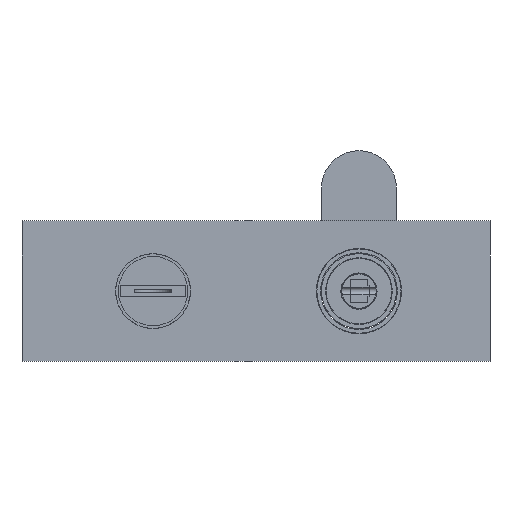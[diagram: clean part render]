
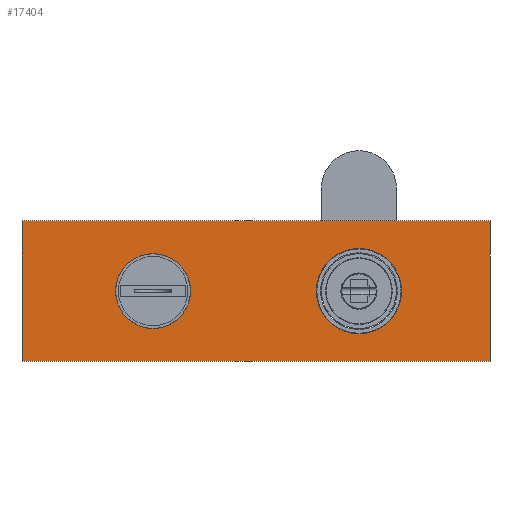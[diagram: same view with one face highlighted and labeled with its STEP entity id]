
A CAD part, front view. The second image highlights one B-rep face of the part: STEP entity #17404.
In plain terms, the highlighted planar face has unit normal (0, -1, 0).
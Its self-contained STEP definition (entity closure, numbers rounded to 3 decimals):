
#13829=DIRECTION('',(0.,0.,-1.));
#13830=VECTOR('',#13829,75.);
#13831=CARTESIAN_POINT('',(-180.,-10.6,37.5));
#13832=LINE('',#13831,#13830);
#13833=DIRECTION('',(-1.,0.,0.));
#13834=VECTOR('',#13833,250.);
#13835=CARTESIAN_POINT('',(70.,-10.6,37.5));
#13836=LINE('',#13835,#13834);
#13837=DIRECTION('',(0.,0.,1.));
#13838=VECTOR('',#13837,75.);
#13839=CARTESIAN_POINT('',(70.,-10.6,-37.5));
#13840=LINE('',#13839,#13838);
#13841=DIRECTION('',(1.,0.,0.));
#13842=VECTOR('',#13841,250.);
#13843=CARTESIAN_POINT('',(-180.,-10.6,-37.5));
#13844=LINE('',#13843,#13842);
#13845=CARTESIAN_POINT('',(0.,-10.6,0.));
#13846=DIRECTION('',(0.,-1.,0.));
#13847=DIRECTION('',(0.,0.,1.));
#13848=AXIS2_PLACEMENT_3D('',#13845,#13846,#13847);
#13850=CARTESIAN_POINT('',(0.,-10.6,0.));
#13851=DIRECTION('',(0.,-1.,0.));
#13852=DIRECTION('',(0.,0.,-1.));
#13853=AXIS2_PLACEMENT_3D('',#13850,#13851,#13852);
#13855=CARTESIAN_POINT('',(-110.,-10.6,0.));
#13856=DIRECTION('',(0.,-1.,0.));
#13857=DIRECTION('',(-1.,0.,0.));
#13858=AXIS2_PLACEMENT_3D('',#13855,#13856,#13857);
#13860=CARTESIAN_POINT('',(-110.,-10.6,0.));
#13861=DIRECTION('',(0.,-1.,0.));
#13862=DIRECTION('',(1.,0.,0.));
#13863=AXIS2_PLACEMENT_3D('',#13860,#13861,#13862);
#15163=CARTESIAN_POINT('',(-180.,-10.6,-37.5));
#15164=CARTESIAN_POINT('',(70.,-10.6,-37.5));
#15165=VERTEX_POINT('',#15163);
#15166=VERTEX_POINT('',#15164);
#15167=CARTESIAN_POINT('',(70.,-10.6,37.5));
#15168=CARTESIAN_POINT('',(-180.,-10.6,37.5));
#15169=VERTEX_POINT('',#15167);
#15170=VERTEX_POINT('',#15168);
#15179=CARTESIAN_POINT('',(0.,-10.6,22.75));
#15180=CARTESIAN_POINT('',(0.,-10.6,-22.75));
#15181=VERTEX_POINT('',#15179);
#15182=VERTEX_POINT('',#15180);
#15187=CARTESIAN_POINT('',(-130.,-10.6,0.));
#15188=CARTESIAN_POINT('',(-90.,-10.6,0.));
#15189=VERTEX_POINT('',#15187);
#15190=VERTEX_POINT('',#15188);
#17378=CARTESIAN_POINT('',(-55.,-10.6,0.));
#17379=DIRECTION('',(0.,-1.,0.));
#17380=DIRECTION('',(1.,0.,0.));
#17381=AXIS2_PLACEMENT_3D('',#17378,#17379,#17380);
#17382=PLANE('',#17381);
#17383=ORIENTED_EDGE('',*,*,#17368,.F.);
#17385=ORIENTED_EDGE('',*,*,#17384,.F.);
#17387=ORIENTED_EDGE('',*,*,#17386,.F.);
#17389=ORIENTED_EDGE('',*,*,#17388,.F.);
#17390=EDGE_LOOP('',(#17383,#17385,#17387,#17389));
#17391=FACE_OUTER_BOUND('',#17390,.F.);
#17393=ORIENTED_EDGE('',*,*,#17392,.T.);
#17395=ORIENTED_EDGE('',*,*,#17394,.T.);
#17396=EDGE_LOOP('',(#17393,#17395));
#17397=FACE_BOUND('',#17396,.F.);
#17399=ORIENTED_EDGE('',*,*,#17398,.T.);
#17401=ORIENTED_EDGE('',*,*,#17400,.T.);
#17402=EDGE_LOOP('',(#17399,#17401));
#17403=FACE_BOUND('',#17402,.F.);
#17404=ADVANCED_FACE('',(#17391,#17397,#17403),#17382,.T.);
#13849=CIRCLE('',#13848,22.75);
#13854=CIRCLE('',#13853,22.75);
#13859=CIRCLE('',#13858,20.);
#13864=CIRCLE('',#13863,20.);
#17368=EDGE_CURVE('',#15170,#15165,#13832,.T.);
#17384=EDGE_CURVE('',#15169,#15170,#13836,.T.);
#17386=EDGE_CURVE('',#15166,#15169,#13840,.T.);
#17388=EDGE_CURVE('',#15165,#15166,#13844,.T.);
#17392=EDGE_CURVE('',#15181,#15182,#13849,.T.);
#17394=EDGE_CURVE('',#15182,#15181,#13854,.T.);
#17398=EDGE_CURVE('',#15189,#15190,#13859,.T.);
#17400=EDGE_CURVE('',#15190,#15189,#13864,.T.);
